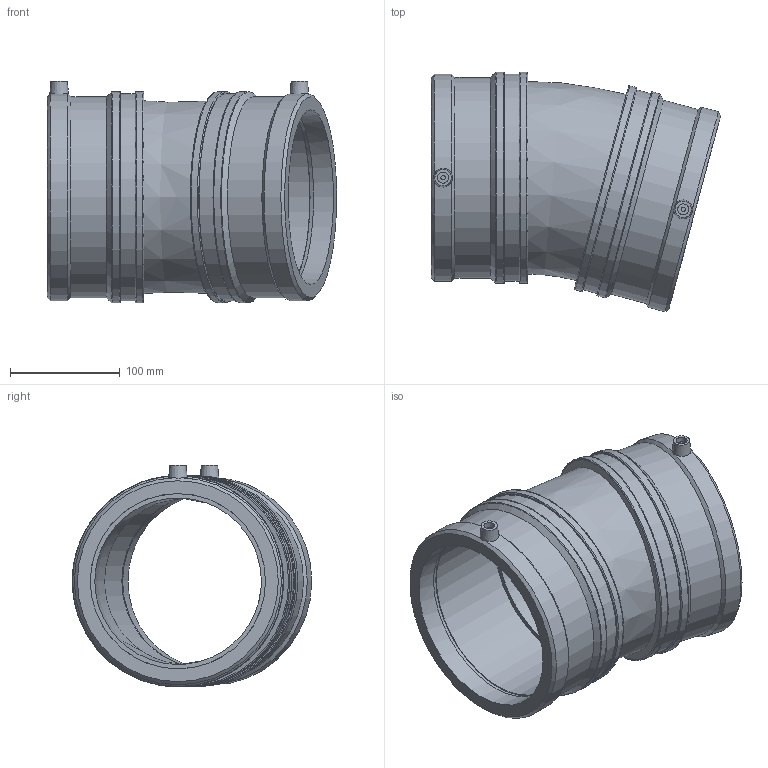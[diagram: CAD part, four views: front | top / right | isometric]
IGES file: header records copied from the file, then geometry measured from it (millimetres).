
Global section: file name: 463704160_473704160.ipt; native system: Autodesk Inventor 2015; preprocessor: unknown; author: KIM; date: 20171106.093444; units: millimetre
Bounding box: 264.27 x 218.78 x 202.5 mm (x, y, z)
Volume: 1706826.7 mm3; surface area: 300782.9 mm2
Topology: 1 solids, 1 shells, 58 faces, 133 edges, 91 vertices
Faces by surface type: plane 18, revolution 17, cylinder 12, cone 10, bspline 1
Full cylindrical faces by diameter (mm): 4 x2, 183.466 x2, 189.14 x2, 193 x4
